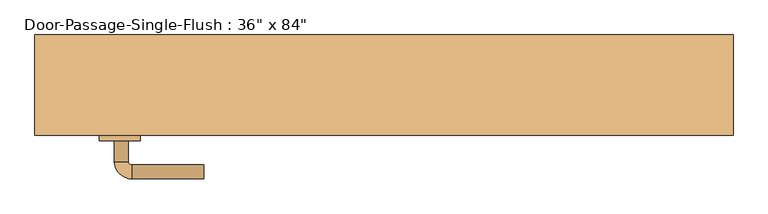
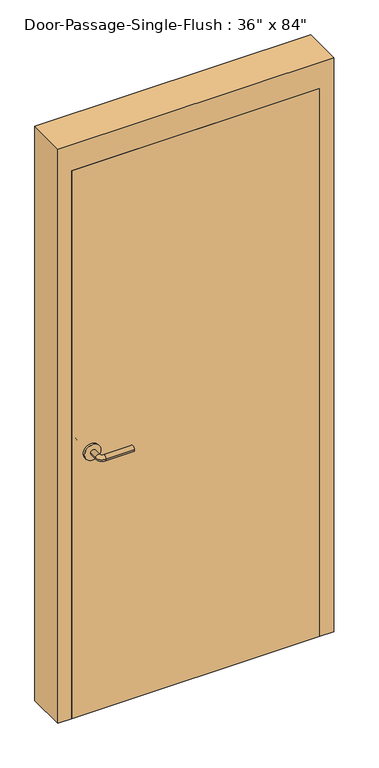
"""IFC4 building model written with IfcOpenShell, lengths in millimetres: door geometry."""

from ifc_helpers import new_model, si_unit, point, frame, frame_2d, origin, origin_with_axes, place, context, project, spatial, polyline, circle_curve, ellipse_curve, trimmed, segment, composite_curve, outline, extrude, faceted_brep, source, transform, mapped, element, save
from ifc_brep_helpers import plane_surface, cylinder_surface, revolved_surface, advanced_brep


def door_36f17018(model_context):
    return source(origin(), model_context, "Body", "SolidModel", [
        advanced_brep(
        [(-392.190625, -23.75, 1016.0), (-372.190625, -23.75, 1016.0), (-392.190625, 6.25, 1016.0), (-372.190625, 6.25, 1016.0), (-367.190625, 11.25, 1016.0), (-367.190625, 31.25, 1016.0), (-262.190625, 31.25, 1016.0), (-262.190625, 11.25, 1016.0)],
        [
            (0, 1, circle_curve(frame((-382.190625, -23.75, 1016.0), z_axis=(0.0, -1.0, 0.0), x_axis=(1.0, 0.0, 0.0)), 10.0)),
            (1, 0, circle_curve(frame((-382.190625, -23.75, 1016.0), z_axis=(0.0, -1.0, 0.0), x_axis=(1.0, 0.0, 0.0)), 10.0)),
            (0, 2),
            (2, 3, circle_curve(frame((-382.190625, 6.25, 1016.0), z_axis=(0.0, -1.0, 0.0), x_axis=(1.0, 0.0, 0.0)), 10.0)),
            (3, 1),
            (3, 2, circle_curve(frame((-382.190625, 6.25, 1016.0), z_axis=(0.0, -1.0, 0.0), x_axis=(1.0, 0.0, 0.0)), 10.0)),
            (4, 3, circle_curve(frame((-367.190625, 6.25, 1016.0), z_axis=(0.0, 0.0, 1.0), x_axis=(-1.0, 0.0, 0.0)), 5.0)),
            (2, 5, circle_curve(frame((-367.190625, 6.25, 1016.0), z_axis=(0.0, 0.0, -1.0), x_axis=(-1.0, 0.0, 0.0)), 25.0)),
            (5, 4, circle_curve(frame((-367.190625, 21.25, 1016.0), z_axis=(-1.0, 0.0, 0.0), x_axis=(0.0, -1.0, 0.0)), 10.0)),
            (4, 5, circle_curve(frame((-367.190625, 21.25, 1016.0), z_axis=(-1.0, 0.0, 0.0), x_axis=(0.0, -1.0, 0.0)), 10.0)),
            (6, 7, circle_curve(frame((-262.190625, 21.25, 1016.0), z_axis=(1.0, 0.0, 0.0), x_axis=(0.0, -1.0, 0.0)), 10.0)),
            (7, 6, circle_curve(frame((-262.190625, 21.25, 1016.0), z_axis=(1.0, 0.0, 0.0), x_axis=(0.0, -1.0, 0.0)), 10.0)),
            (5, 6),
            (7, 4),
        ],
        [
            plane_surface(frame((-382.190625, -23.75, 1016.0), z_axis=(0.0, -1.0, 0.0), x_axis=(0.0, 0.0, 1.0))),
            cylinder_surface(frame((-382.190625, -23.75, 1016.0), z_axis=(0.0, -1.0, 0.0), x_axis=(1.0, 0.0, 0.0)), 10.0),
            revolved_surface(trimmed(ellipse_curve(frame((-382.190625, 6.25, 1016.0), z_axis=(0.0, -1.0, 0.0), x_axis=(1.0, 0.0, 0.0)), 10.0, 10.0), [point((-392.190625, 6.25, 1016.0))], [point((-372.190625, 6.25, 1016.0))], True, "CARTESIAN"), (-367.190625, 6.25, 1016.0), (0.0, 0.0, -1.0)),
            revolved_surface(trimmed(ellipse_curve(frame((-382.190625, 6.25, 1016.0), z_axis=(0.0, -1.0, 0.0), x_axis=(1.0, 0.0, 0.0)), 10.0, 10.0), [point((-372.190625, 6.25, 1016.0))], [point((-392.190625, 6.25, 1016.0))], True, "CARTESIAN"), (-367.190625, 6.25, 1016.0), (0.0, 0.0, -1.0)),
            plane_surface(frame((-262.190625, 21.25, 1016.0), z_axis=(1.0, 0.0, 0.0), x_axis=(0.0, 0.0, 1.0))),
            cylinder_surface(frame((-367.190625, 21.25, 1016.0), z_axis=(-1.0, 0.0, 0.0), x_axis=(0.0, -1.0, 0.0)), 10.0),
        ],
        [
            (0, [[1, 2]]),
            (1, [[-1, 3, 4, 5]]),
            (1, [[-2, -5, 6, -3]]),
            (2, [[7, -4, 8, 9]]),
            (3, [[-8, -6, -7, 10]]),
            (4, [[11, 12]]),
            (5, [[-9, 13, -12, 14]]),
            (5, [[-10, -14, -11, -13]]),
        ],
    ),
        extrude(outline(composite_curve([segment(trimmed(circle_curve(frame_2d((1016.0, -384.690625)), 30.0), [point((1016.0, -414.690625))], [point((1016.0, -354.690625))], False, "CARTESIAN"), True, "CONTINUOUS"), segment(trimmed(circle_curve(frame_2d((1016.0, -384.690625)), 30.0), [point((1016.0, -354.690625))], [point((1016.0, -414.690625))], False, "CARTESIAN"), True, "CONTINUOUS")], self_intersect=False)), frame((0.0, -31.75, 0.0), z_axis=(0.0, 1.0, 0.0), x_axis=(0.0, 0.0, 1.0)), (0.0, 0.0, 1.0), 8.0),
        advanced_brep(
        [(-392.190625, -84.2, 1016.0), (-372.190625, -84.2, 1016.0), (-372.190625, -114.2, 1016.0), (-392.190625, -114.2, 1016.0), (-367.190625, -119.2, 1016.0), (-367.190625, -139.2, 1016.0), (-262.190625, -139.2, 1016.0), (-262.190625, -119.2, 1016.0)],
        [
            (0, 1, circle_curve(frame((-382.190625, -84.2, 1016.0), z_axis=(0.0, 1.0, 0.0), x_axis=(1.0, 0.0, 0.0)), 10.0)),
            (1, 0, circle_curve(frame((-382.190625, -84.2, 1016.0), z_axis=(0.0, 1.0, 0.0), x_axis=(1.0, 0.0, 0.0)), 10.0)),
            (1, 2),
            (2, 3, circle_curve(frame((-382.190625, -114.2, 1016.0), z_axis=(0.0, 1.0, 0.0), x_axis=(1.0, 0.0, 0.0)), 10.0)),
            (3, 0),
            (3, 2, circle_curve(frame((-382.190625, -114.2, 1016.0), z_axis=(0.0, 1.0, 0.0), x_axis=(1.0, 0.0, 0.0)), 10.0)),
            (4, 5, circle_curve(frame((-367.190625, -129.2, 1016.0), z_axis=(-1.0, 0.0, 0.0), x_axis=(0.0, 1.0, 0.0)), 10.0)),
            (5, 3, circle_curve(frame((-367.190625, -114.2, 1016.0), z_axis=(0.0, 0.0, -1.0), x_axis=(-1.0, 0.0, 0.0)), 25.0)),
            (2, 4, circle_curve(frame((-367.190625, -114.2, 1016.0), z_axis=(0.0, 0.0, 1.0), x_axis=(-1.0, 0.0, 0.0)), 5.0)),
            (5, 4, circle_curve(frame((-367.190625, -129.2, 1016.0), z_axis=(-1.0, 0.0, 0.0), x_axis=(0.0, 1.0, 0.0)), 10.0)),
            (6, 7, circle_curve(frame((-262.190625, -129.2, 1016.0), z_axis=(1.0, 0.0, 0.0), x_axis=(0.0, 1.0, 0.0)), 10.0)),
            (7, 6, circle_curve(frame((-262.190625, -129.2, 1016.0), z_axis=(1.0, 0.0, 0.0), x_axis=(0.0, 1.0, 0.0)), 10.0)),
            (4, 7),
            (6, 5),
        ],
        [
            plane_surface(frame((-382.190625, -84.2, 1016.0), z_axis=(0.0, 1.0, 0.0), x_axis=(0.0, 0.0, 1.0))),
            cylinder_surface(frame((-382.190625, -84.2, 1016.0), z_axis=(0.0, 1.0, 0.0), x_axis=(1.0, 0.0, 0.0)), 10.0),
            revolved_surface(trimmed(ellipse_curve(frame((-382.190625, -114.2, 1016.0), z_axis=(0.0, -1.0, 0.0), x_axis=(1.0, 0.0, 0.0)), 10.0, 10.0), [point((-392.190625, -114.2, 1016.0))], [point((-372.190625, -114.2, 1016.0))], True, "CARTESIAN"), (-367.190625, -114.2, 1016.0), (0.0, 0.0, -1.0)),
            revolved_surface(trimmed(ellipse_curve(frame((-382.190625, -114.2, 1016.0), z_axis=(0.0, -1.0, 0.0), x_axis=(1.0, 0.0, 0.0)), 10.0, 10.0), [point((-372.190625, -114.2, 1016.0))], [point((-392.190625, -114.2, 1016.0))], True, "CARTESIAN"), (-367.190625, -114.2, 1016.0), (0.0, 0.0, -1.0)),
            plane_surface(frame((-262.190625, -129.2, 1016.0), z_axis=(1.0, 0.0, 0.0), x_axis=(0.0, 0.0, 1.0))),
            cylinder_surface(frame((-367.190625, -129.2, 1016.0), z_axis=(-1.0, 0.0, 0.0), x_axis=(0.0, 1.0, 0.0)), 10.0),
        ],
        [
            (0, [[1, 2]]),
            (1, [[3, 4, 5, -2]]),
            (1, [[-5, 6, -3, -1]]),
            (2, [[7, 8, -4, 9]]),
            (3, [[10, -9, -6, -8]]),
            (4, [[11, 12]]),
            (5, [[13, -11, 14, -7]]),
            (5, [[-14, -12, -13, -10]]),
        ],
    ),
        extrude(outline(composite_curve([segment(trimmed(circle_curve(frame_2d((1016.0, -384.690625)), 30.0), [point((1016.0, -414.690625))], [point((1016.0, -354.690625))], False, "CARTESIAN"), True, "CONTINUOUS"), segment(trimmed(circle_curve(frame_2d((1016.0, -384.690625)), 30.0), [point((1016.0, -354.690625))], [point((1016.0, -414.690625))], False, "CARTESIAN"), True, "CONTINUOUS")], self_intersect=False)), frame((0.0, -84.2, 0.0), z_axis=(0.0, 1.0, 0.0), x_axis=(0.0, 0.0, 1.0)), (0.0, 0.0, 1.0), 8.0),
        faceted_brep([(457.2, -26.9875, 0.0), (441.325, -26.9875, 0.0), (441.325, 20.6375, 0.0), (457.2, 20.6375, 0.0), (457.2, 69.85, 0.0), (508.0, 69.85, 0.0), (508.0, -76.2, 0.0), (457.2, -76.2, 0.0), (457.2, -76.2, 2133.6), (457.2, -26.9875, 2133.6), (508.0, -76.2, 2235.2), (-508.0, -76.2, 2235.2), (-508.0, -76.2, 0.0), (-457.2, -76.2, 0.0), (-457.2, -76.2, 2133.6), (508.0, 69.85, 2235.2), (457.2, 69.85, 2133.6), (-457.2, 69.85, 2133.6), (-457.2, 69.85, 0.0), (-508.0, 69.85, 0.0), (-508.0, 69.85, 2235.2), (457.2, 20.6375, 2133.6), (441.325, 20.6375, 2117.725), (-441.325, 20.6375, 2117.725), (-441.325, 20.6375, 0.0), (-457.2, 20.6375, 0.0), (-457.2, 20.6375, 2133.6), (441.325, -26.9875, 2117.725), (-457.2, -26.9875, 2133.6), (-457.2, -26.9875, 0.0), (-441.325, -26.9875, 0.0), (-441.325, -26.9875, 2117.725)], [[[0, 1, 2, 3, 4, 5, 6, 7]], [[7, 8, 9, 0]], [[6, 10, 11, 12, 13, 14, 8, 7]], [[5, 15, 10, 6]], [[4, 16, 17, 18, 19, 20, 15, 5]], [[3, 21, 16, 4]], [[2, 22, 23, 24, 25, 26, 21, 3]], [[1, 27, 22, 2]], [[0, 9, 28, 29, 30, 31, 27, 1]], [[8, 14, 28, 9]], [[16, 21, 26, 17]], [[22, 27, 31, 23]], [[12, 19, 18, 25, 24, 30, 29, 13]], [[13, 29, 28, 14]], [[11, 20, 19, 12]], [[17, 26, 25, 18]], [[23, 31, 30, 24]], [[15, 20, 11, 10]]]),
        extrude(outline(polyline([(457.2, -31.75), (457.2, -76.2), (-457.2, -76.2), (-457.2, -31.75), (457.2, -31.75)])), origin_with_axes(), (0.0, 0.0, 1.0), 2133.6),
    ])


if __name__ == "__main__":
    model = new_model("IFC4")
    model_context = context("Model", 3, world=origin())
    ifc_project = project(units=[si_unit("LENGTHUNIT", "METRE", prefix="MILLI")], contexts=[model_context])
    site = spatial("IfcSite", under=ifc_project)
    building = spatial("IfcBuilding", under=site)
    placement = place(None, origin())
    door_shape = door_36f17018(model_context)
    element("IfcDoor", 1, ObjectType="Door-Passage-Single-Flush : 36\" x 84\"", at=placement, inside=building, context=model_context, shape_type="MappedRepresentation", body=[
        mapped(door_shape, transform((0.0, 0.0, 0.0), x_axis=(1.0, 0.0, 0.0), y_axis=(0.0, 1.0, 0.0), z_axis=(0.0, 0.0, 1.0))),
    ])
    save(model, "model.ifc")
